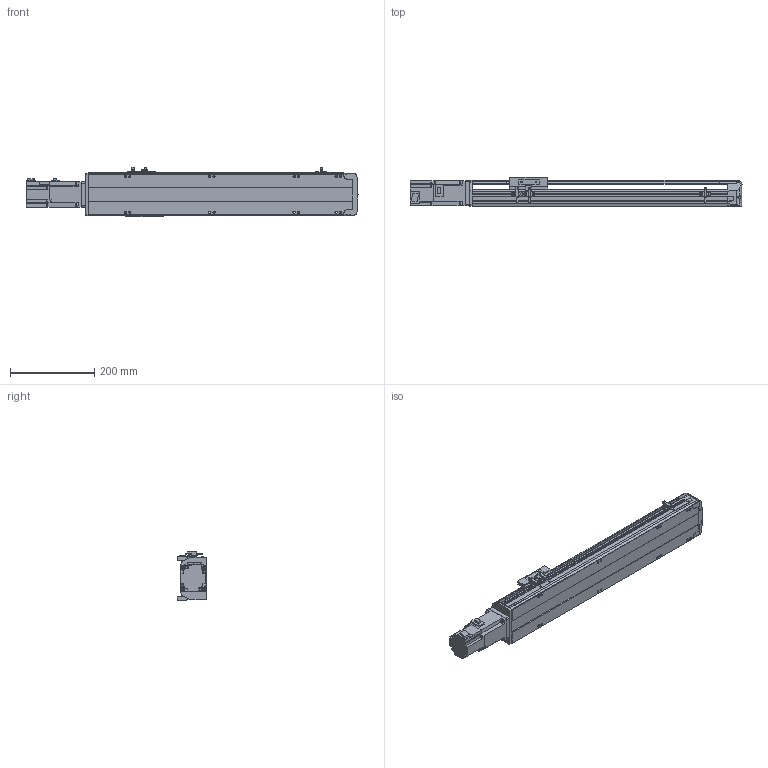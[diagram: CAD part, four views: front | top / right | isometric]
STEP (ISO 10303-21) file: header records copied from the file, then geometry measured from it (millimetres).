
FILE_DESCRIPTION(/* description */ ('STEP AP214'),/* implementation_level */ '2;1');
FILE_NAME(/* name */ 'PSS120-L10-S400-BC-T40-C1-N(0)',/* time_stamp */ '2022-06-02T02:33:02+02:00',/* author */ ('License CC BY-ND 4.0'),/* organization */ ('CADENAS'),/* preprocessor_version */ 'ST-DEVELOPER v18.102',/* originating_system */ 'PARTsolutions',/* authorisation */ ' ');
FILE_SCHEMA (('AUTOMOTIVE_DESIGN {1 0 10303 214 3 1 1}'));
Length unit declared in the file: millimetre
Products named in the file (8): PSS120-L10-S400-BC-T40-C1-N(0); PSS120-S400-BC-N_S; T40-p1; PSS120BC-N_h; PSS120-N_sensor; PSS120-BC-C1-N_sl; PSS120-N_Q; PSS120-S400-BC-C1-N_body
Assembly tree (9 placements, depth 2):
  PSS120-L10-S400-BC-T40-C1-N(0)
    PSS120-S400-BC-N_S
    T40-p1
    PSS120BC-N_h
    PSS120-N_sensor  x3
    PSS120-BC-C1-N_sl
    PSS120-N_Q
    PSS120-S400-BC-C1-N_body
Bounding box: 788.7 x 70 x 117.7 mm (x, y, z)
Volume: 2584053.2 mm3; surface area: 471904.1 mm2
Topology: 9 solids, 9 shells, 801 faces, 2144 edges, 1422 vertices
Faces by surface type: plane 547, cylinder 234, cone 20
Full cylindrical faces by diameter (mm): 2.8 x3, 4 x4, 4.134 x12, 4.2 x4, 4.4 x2, 4.5 x4, 4.6 x3, 4.917 x4, 5 x6, 5.5 x15, 7 x2, 8 x8, 8.5 x12, 14 x1, 28 x1, 32 x1, 50 x1
Entity records: 21484 total; most frequent: CARTESIAN_POINT 3866, DIRECTION 3599, ORIENTED_EDGE 3490, EDGE_CURVE 1745, LINE 1233, VECTOR 1233, VERTEX_POINT 1214, AXIS2_PLACEMENT_3D 1183
